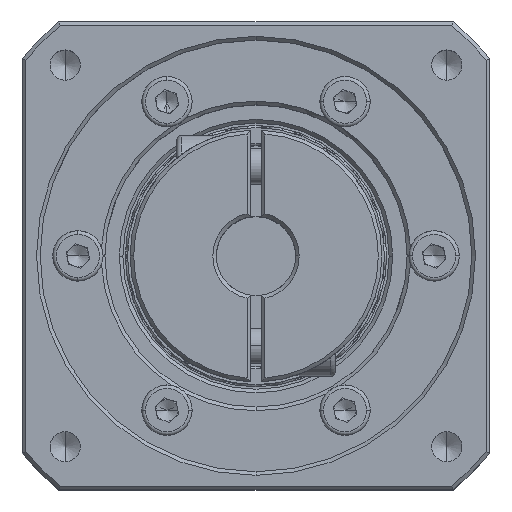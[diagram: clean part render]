
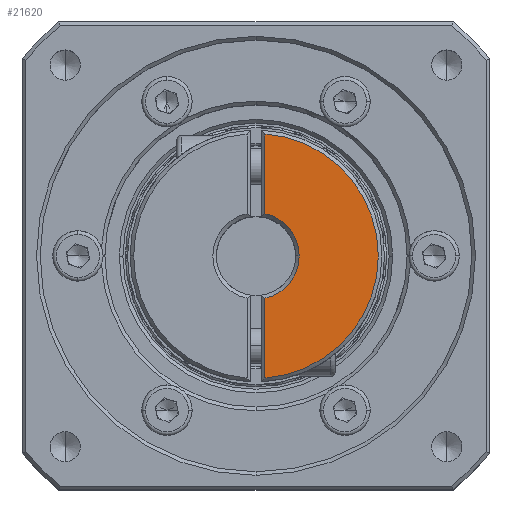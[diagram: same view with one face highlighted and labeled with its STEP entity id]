
A CAD part, top view. The second image highlights one B-rep face of the part: STEP entity #21620.
In plain terms, the highlighted planar face has unit normal (0, 0, 1).
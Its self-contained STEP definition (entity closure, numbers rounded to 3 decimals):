
#1524 = VERTEX_POINT ( 'NONE', #40148 ) ;
#2057 = VERTEX_POINT ( 'NONE', #8199 ) ;
#6993 = DIRECTION ( 'NONE',  ( 1., 0., 0. ) ) ;
#8199 = CARTESIAN_POINT ( 'NONE',  ( -35.352, 40.881, 18.597 ) ) ;
#10480 = CARTESIAN_POINT ( 'NONE',  ( -35.352, 51.966, 18.597 ) ) ;
#16331 = VECTOR ( 'NONE', #66555, 1000. ) ;
#21620 = ADVANCED_FACE ( 'NONE', ( #69065 ), #77341, .F. ) ;
#23764 = CARTESIAN_POINT ( 'NONE',  ( -35.352, 54.198, 18.597 ) ) ;
#23880 = ORIENTED_EDGE ( 'NONE', *, *, #59918, .T. ) ;
#26836 = DIRECTION ( 'NONE',  ( 0., 0., -1. ) ) ;
#28389 = DIRECTION ( 'NONE',  ( 0., 0., -1. ) ) ;
#30092 = ORIENTED_EDGE ( 'NONE', *, *, #54339, .T. ) ;
#31984 = EDGE_CURVE ( 'NONE', #102939, #2057, #49120, .T. ) ;
#32356 = CARTESIAN_POINT ( 'NONE',  ( -35.352, 18.058, 18.597 ) ) ;
#35293 = CARTESIAN_POINT ( 'NONE',  ( -36.602, 17.512, 18.597 ) ) ;
#40148 = CARTESIAN_POINT ( 'NONE',  ( -35.352, 29.144, 18.597 ) ) ;
#41437 = DIRECTION ( 'NONE',  ( 0., 0., -1. ) ) ;
#44000 = CARTESIAN_POINT ( 'NONE',  ( -36.602, 35.012, 18.597 ) ) ;
#47079 = ORIENTED_EDGE ( 'NONE', *, *, #50463, .F. ) ;
#49120 = LINE ( 'NONE', #23764, #16331 ) ;
#49451 = EDGE_CURVE ( 'NONE', #2057, #75542, #54387, .T. ) ;
#50463 = EDGE_CURVE ( 'NONE', #102939, #109879, #89582, .T. ) ;
#51279 = DIRECTION ( 'NONE',  ( 0., 0., -1. ) ) ;
#54339 = EDGE_CURVE ( 'NONE', #75542, #1524, #68555, .T. ) ;
#54387 = CIRCLE ( 'NONE', #98731, 6. ) ;
#54557 = AXIS2_PLACEMENT_3D ( 'NONE', #98031, #28389, #71189 ) ;
#58889 = VECTOR ( 'NONE', #82324, 1000. ) ;
#59918 = EDGE_CURVE ( 'NONE', #1524, #109879, #105590, .T. ) ;
#60423 = DIRECTION ( 'NONE',  ( -1., 0., 0. ) ) ;
#66555 = DIRECTION ( 'NONE',  ( 0., -1., 0. ) ) ;
#68555 = CIRCLE ( 'NONE', #54557, 6. ) ;
#69065 = FACE_OUTER_BOUND ( 'NONE', #83257, .T. ) ;
#71189 = DIRECTION ( 'NONE',  ( 1., 0., 0. ) ) ;
#75483 = ORIENTED_EDGE ( 'NONE', *, *, #49451, .T. ) ;
#75542 = VERTEX_POINT ( 'NONE', #92605 ) ;
#77341 = PLANE ( 'NONE',  #80265 ) ;
#80043 = ORIENTED_EDGE ( 'NONE', *, *, #31984, .T. ) ;
#80265 = AXIS2_PLACEMENT_3D ( 'NONE', #35293, #51279, #60423 ) ;
#82324 = DIRECTION ( 'NONE',  ( 0., -1., 0. ) ) ;
#83257 = EDGE_LOOP ( 'NONE', ( #47079, #80043, #75483, #30092, #23880 ) ) ;
#89582 = CIRCLE ( 'NONE', #97373, 17. ) ;
#92605 = CARTESIAN_POINT ( 'NONE',  ( -30.602, 35.012, 18.597 ) ) ;
#97373 = AXIS2_PLACEMENT_3D ( 'NONE', #44000, #26836, #105330 ) ;
#98031 = CARTESIAN_POINT ( 'NONE',  ( -36.602, 35.012, 18.597 ) ) ;
#98731 = AXIS2_PLACEMENT_3D ( 'NONE', #111143, #41437, #6993 ) ;
#100054 = CARTESIAN_POINT ( 'NONE',  ( -35.352, 54.198, 18.597 ) ) ;
#102939 = VERTEX_POINT ( 'NONE', #10480 ) ;
#105330 = DIRECTION ( 'NONE',  ( -1., 0., 0. ) ) ;
#105590 = LINE ( 'NONE', #100054, #58889 ) ;
#109879 = VERTEX_POINT ( 'NONE', #32356 ) ;
#111143 = CARTESIAN_POINT ( 'NONE',  ( -36.602, 35.012, 18.597 ) ) ;
